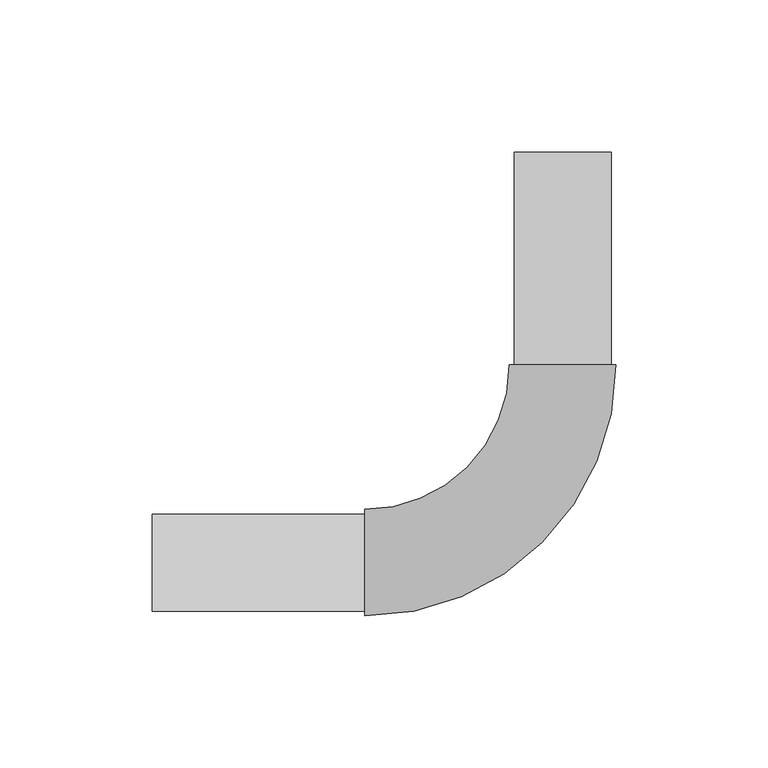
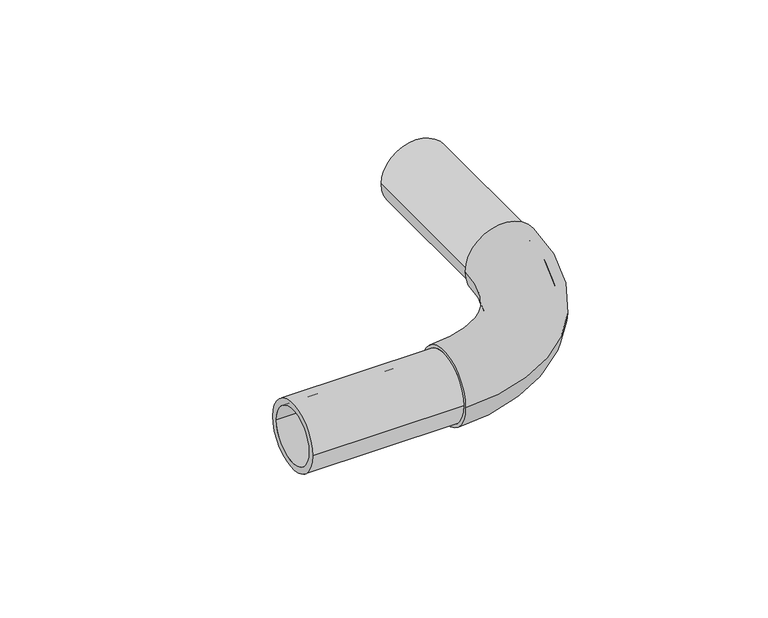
"""IFC4 building model written with IfcOpenShell, lengths in millimetres: pipe fitting geometry, ADSK_ФитингСварнойПЭ_Отвод : Стандартная."""

from ifc_helpers import new_model, si_unit, point, frame, origin, place, context, project, spatial, polyline, circle_curve, ellipse_curve, trimmed, source, transform, mapped, element, save
from ifc_brep_helpers import plane_surface, cylinder_surface, revolved_surface, advanced_brep


def pipe_fitting_81160ba3(model_context):
    return source(origin(), model_context, "Body", "AdvancedBrep", [
        advanced_brep(
        [(-65.0, -17.5, 0.0), (-65.0, 17.5, 0.0), (-65.0, -16.0, 0.0), (-65.0, 16.0, 0.0), (17.5, 65.0, 0.0), (-17.5, 65.0, 0.0), (-16.0, 65.0, 0.0), (16.0, 65.0, 0.0), (-135.0, 16.0, 0.0), (-135.0, -16.0, 0.0), (-135.0, 13.0, 0.0), (-135.0, -13.0, 0.0), (-65.0, 13.0, 0.0), (-65.0, -13.0, 0.0), (16.0, 135.0, 0.0), (-16.0, 135.0, 0.0), (13.0, 135.0, 0.0), (-13.0, 135.0, 0.0), (13.0, 65.0, 0.0), (-13.0, 65.0, 0.0)],
        [
            (0, 1, circle_curve(frame((-65.0, 0.0, 0.0), z_axis=(-1.0, 0.0, 0.0), x_axis=(0.0, 1.0, 0.0)), 17.5)),
            (1, 0, circle_curve(frame((-65.0, 0.0, 0.0), z_axis=(-1.0, 0.0, 0.0), x_axis=(0.0, 1.0, 0.0)), 17.5)),
            (2, 3, circle_curve(frame((-65.0, 0.0, 0.0), z_axis=(1.0, 0.0, 0.0), x_axis=(0.0, -1.0, 0.0)), 16.0)),
            (3, 2, circle_curve(frame((-65.0, 0.0, 0.0), z_axis=(1.0, 0.0, 0.0), x_axis=(0.0, -1.0, 0.0)), 16.0)),
            (4, 5, circle_curve(frame((0.0, 65.0, 0.0), z_axis=(0.0, 1.0, 0.0), x_axis=(-1.0, 0.0, 0.0)), 17.5)),
            (5, 4, circle_curve(frame((0.0, 65.0, 0.0), z_axis=(0.0, 1.0, 0.0), x_axis=(-1.0, 0.0, 0.0)), 17.5)),
            (6, 7, circle_curve(frame((0.0, 65.0, 0.0), z_axis=(0.0, -1.0, 0.0), x_axis=(-1.0, 0.0, 0.0)), 16.0)),
            (7, 6, circle_curve(frame((0.0, 65.0, 0.0), z_axis=(0.0, -1.0, 0.0), x_axis=(-1.0, 0.0, 0.0)), 16.0)),
            (0, 4, circle_curve(frame((-65.0, 65.0, 0.0), z_axis=(0.0, 0.0, 1.0), x_axis=(0.0, -1.0, 0.0)), 82.5)),
            (5, 1, circle_curve(frame((-65.0, 65.0, 0.0), z_axis=(0.0, 0.0, -1.0), x_axis=(0.0, -1.0, 0.0)), 47.5)),
            (8, 9, circle_curve(frame((-135.0, 0.0, 0.0), z_axis=(-1.0, 0.0, 0.0), x_axis=(0.0, -1.0, 0.0)), 16.0)),
            (9, 8, circle_curve(frame((-135.0, 0.0, 0.0), z_axis=(-1.0, 0.0, 0.0), x_axis=(0.0, -1.0, 0.0)), 16.0)),
            (10, 11, circle_curve(frame((-135.0, 0.0, 0.0), z_axis=(1.0, 0.0, 0.0), x_axis=(0.0, -1.0, 0.0)), 13.0)),
            (11, 10, circle_curve(frame((-135.0, 0.0, 0.0), z_axis=(1.0, 0.0, 0.0), x_axis=(0.0, -1.0, 0.0)), 13.0)),
            (8, 3),
            (2, 9),
            (10, 12),
            (12, 13, circle_curve(frame((-65.0, 0.0, 0.0), z_axis=(1.0, 0.0, 0.0), x_axis=(0.0, -1.0, 0.0)), 13.0)),
            (13, 11),
            (13, 12, circle_curve(frame((-65.0, 0.0, 0.0), z_axis=(1.0, 0.0, 0.0), x_axis=(0.0, -1.0, 0.0)), 13.0)),
            (14, 15, circle_curve(frame((0.0, 135.0, 0.0), z_axis=(0.0, 1.0, 0.0), x_axis=(-1.0, 0.0, 0.0)), 16.0)),
            (15, 14, circle_curve(frame((0.0, 135.0, 0.0), z_axis=(0.0, 1.0, 0.0), x_axis=(-1.0, 0.0, 0.0)), 16.0)),
            (16, 17, circle_curve(frame((0.0, 135.0, 0.0), z_axis=(0.0, -1.0, 0.0), x_axis=(-1.0, 0.0, 0.0)), 13.0)),
            (17, 16, circle_curve(frame((0.0, 135.0, 0.0), z_axis=(0.0, -1.0, 0.0), x_axis=(-1.0, 0.0, 0.0)), 13.0)),
            (16, 18),
            (18, 19, circle_curve(frame((0.0, 65.0, 0.0), z_axis=(0.0, -1.0, 0.0), x_axis=(-1.0, 0.0, 0.0)), 13.0)),
            (19, 17),
            (19, 18, circle_curve(frame((0.0, 65.0, 0.0), z_axis=(0.0, -1.0, 0.0), x_axis=(-1.0, 0.0, 0.0)), 13.0)),
            (14, 7),
            (6, 15),
            (19, 12, circle_curve(frame((-65.0, 65.0, 0.0), z_axis=(0.0, 0.0, -1.0), x_axis=(0.0, -1.0, 0.0)), 52.0)),
            (13, 18, circle_curve(frame((-65.0, 65.0, 0.0), z_axis=(0.0, 0.0, 1.0), x_axis=(0.0, -1.0, 0.0)), 78.0)),
        ],
        [
            plane_surface(frame((-65.0, 0.0, 0.0), z_axis=(-1.0, 0.0, 0.0), x_axis=(0.0, 0.0, 1.0))),
            plane_surface(frame((0.0, 65.0, 0.0), z_axis=(0.0, 1.0, 0.0), x_axis=(0.0, 0.0, 1.0))),
            revolved_surface(trimmed(ellipse_curve(frame((-65.0, 0.0, 0.0), z_axis=(-1.0, 0.0, 0.0), x_axis=(0.0, 1.0, 0.0)), 17.5, 17.5), [point((-65.0, -17.5, 0.0))], [point((-65.0, 17.5, 0.0))], True, "CARTESIAN"), (-65.0, 65.0, 0.0), (0.0, 0.0, 1.0)),
            revolved_surface(trimmed(ellipse_curve(frame((-65.0, 0.0, 0.0), z_axis=(-1.0, 0.0, 0.0), x_axis=(0.0, 1.0, 0.0)), 17.5, 17.5), [point((-65.0, 17.5, 0.0))], [point((-65.0, -17.5, 0.0))], True, "CARTESIAN"), (-65.0, 65.0, 0.0), (0.0, 0.0, 1.0)),
            plane_surface(frame((-135.0, 0.0, 0.0), z_axis=(-1.0, 0.0, 0.0), x_axis=(0.0, 0.0, 1.0))),
            cylinder_surface(frame((-65.0, 0.0, 0.0), z_axis=(1.0, 0.0, 0.0), x_axis=(0.0, -1.0, 0.0)), 16.0),
            revolved_surface(polyline([(-135.0, -13.0, 0.0), (-65.0, -13.0, 0.0)]), (-65.0, 0.0, 0.0), (-1.0, 0.0, 0.0)),
            plane_surface(frame((0.0, 135.0, 0.0), z_axis=(0.0, 1.0, 0.0), x_axis=(0.0, 0.0, 1.0))),
            revolved_surface(polyline([(-13.0, 135.0, 0.0), (-13.0, 65.0, 0.0)]), (0.0, 65.0, 0.0), (0.0, 1.0, 0.0)),
            cylinder_surface(frame((0.0, 65.0, 0.0), z_axis=(0.0, -1.0, 0.0), x_axis=(-1.0, 0.0, 0.0)), 16.0),
            revolved_surface(trimmed(ellipse_curve(frame((-65.0, 0.0, 0.0), z_axis=(1.0, 0.0, 0.0), x_axis=(0.0, 1.0, 0.0)), 13.0, 13.0), [point((-65.0, -13.0, 0.0))], [point((-65.0, 13.0, 0.0))], True, "CARTESIAN"), (-65.0, 65.0, 0.0), (0.0, 0.0, 1.0)),
            revolved_surface(trimmed(ellipse_curve(frame((-65.0, 0.0, 0.0), z_axis=(1.0, 0.0, 0.0), x_axis=(0.0, 1.0, 0.0)), 13.0, 13.0), [point((-65.0, 13.0, 0.0))], [point((-65.0, -13.0, 0.0))], True, "CARTESIAN"), (-65.0, 65.0, 0.0), (0.0, 0.0, 1.0)),
        ],
        [
            (0, [[1, 2], [3, 4]]),
            (1, [[5, 6], [7, 8]]),
            (2, [[-1, 9, -6, 10]]),
            (3, [[-2, -10, -5, -9]]),
            (4, [[11, 12], [13, 14]]),
            (5, [[-11, 15, -3, 16]]),
            (5, [[-12, -16, -4, -15]]),
            (6, [[-13, 17, 18, 19]]),
            (6, [[-14, -19, 20, -17]]),
            (7, [[21, 22], [23, 24]]),
            (8, [[-23, 25, 26, 27]]),
            (8, [[-24, -27, 28, -25]]),
            (9, [[-21, 29, -7, 30]]),
            (9, [[-22, -30, -8, -29]]),
            (10, [[31, -20, 32, -28]]),
            (11, [[-31, -26, -32, -18]]),
        ],
    ),
    ])


if __name__ == "__main__":
    model = new_model("IFC4")
    model_context = context("Model", 3, world=origin())
    ifc_project = project(units=[si_unit("LENGTHUNIT", "METRE", prefix="MILLI")], contexts=[model_context])
    site = spatial("IfcSite", under=ifc_project)
    building = spatial("IfcBuilding", under=site)
    placement = place(None, origin())
    pipe_fitting_shape = pipe_fitting_81160ba3(model_context)
    element("IfcPipeFitting", 1, ObjectType="ADSK_ФитингСварнойПЭ_Отвод : Стандартная", at=placement, inside=building, context=model_context, shape_type="MappedRepresentation", body=[
        mapped(pipe_fitting_shape, transform((0.0, 0.0, 0.0), x_axis=(1.0, 0.0, 0.0), y_axis=(0.0, 1.0, 0.0), z_axis=(0.0, 0.0, 1.0))),
    ])
    save(model, "model.ifc")
